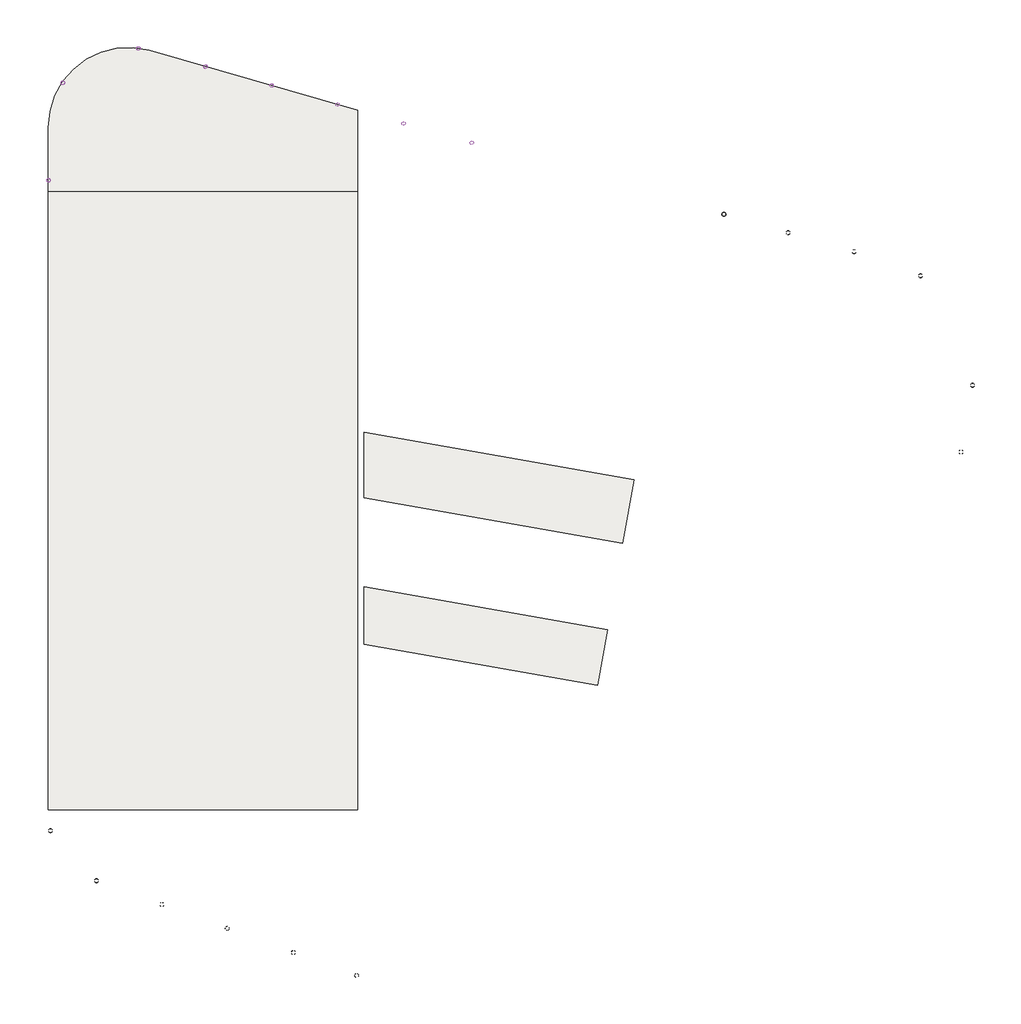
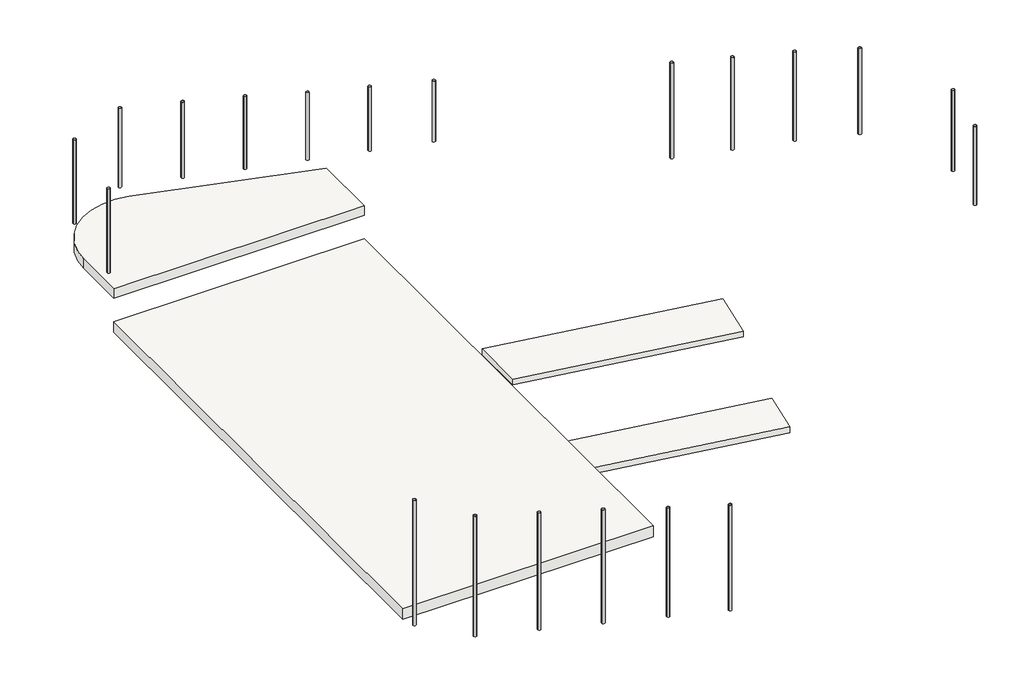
# One storey: 20 columns, 4 slabs.
"""IFC4 building model written with IfcOpenShell, lengths in millimetres."""

from ifc_helpers import new_model, si_unit, point, frame, frame_2d, origin, place, context, project, spatial, polyline, circle_curve, trimmed, segment, composite_curve, outline, extrude, transform, mapped, element, save
from components import column_1d1b7c36, column_1d5dbb1e, column_ca0ee623, column_ade1be1b, column_496c960e, column_339aa583, column_07a906fe, column_689e1651, column_8db69a7e, column_04f8d3d0, column_ffe7df0a, column_bf9cf6a6, column_01d08799, column_da6b27b0, column_163e7ca7, column_d5cd42f5, column_413da511, column_7dd9e76f, column_b007c91a

model = new_model("IFC4")

# Units and contexts
model_context = context("Model", 3, world=origin())
ifc_project = project(units=[si_unit("LENGTHUNIT", "METRE", prefix="MILLI")], contexts=[model_context])

# Site, building, storey
site = spatial("IfcSite", under=ifc_project)
building = spatial("IfcBuilding", under=site)
storey = spatial("IfcBuildingStorey", under=building, Name="02 2e verd. b.k. ruwe vloer", Elevation=3700.0)

# Columns
placement = place(None, origin())
column_shape = column_1d1b7c36(model_context)
element("IfcColumn", 1, ObjectType="NLRS_28_SC_TLB_kolom buis_generiek_ISR : ø88.9x5 ", at=placement, inside=storey, context=model_context, shape_type="MappedRepresentation", body=[
    mapped(column_shape, transform((10022.7239755, 9512.9180074, 0.0), x_axis=(1.0, 0.0, 0.0), y_axis=(0.0, 1.0, 0.0), z_axis=(0.0, 0.0, 1.0))),
])
column_2_shape = column_1d5dbb1e(model_context)
element("IfcColumn", 2, ObjectType="NLRS_28_SC_TLB_kolom buis_generiek_ISR : ø88.9x5 ", at=placement, inside=storey, context=model_context, shape_type="MappedRepresentation", body=[
    mapped(column_2_shape, transform((11094.4304625, 8347.512717, 0.0), x_axis=(1.0, 0.0, 0.0), y_axis=(0.0, 1.0, 0.0), z_axis=(0.0, 0.0, 1.0))),
])
column_3_shape = column_ca0ee623(model_context)
element("IfcColumn", 3, ObjectType="NLRS_28_SC_TLB_kolom buis_generiek_ISR : ø88.9x5 ", at=placement, inside=storey, context=model_context, shape_type="MappedRepresentation", body=[
    mapped(column_3_shape, transform((12618.434291, 7792.8206865, 0.0), x_axis=(1.0, 0.0, 0.0), y_axis=(0.0, 1.0, 0.0), z_axis=(0.0, 0.0, 1.0))),
])
column_4_shape = column_ade1be1b(model_context)
element("IfcColumn", 4, ObjectType="NLRS_28_SC_TLB_kolom buis_generiek_ISR : ø88.9x5 ", at=placement, inside=storey, context=model_context, shape_type="MappedRepresentation", body=[
    mapped(column_4_shape, transform((14140.7897516, 7238.7286129, 0.0), x_axis=(1.0, 0.0, 0.0), y_axis=(0.0, 1.0, 0.0), z_axis=(0.0, 0.0, 1.0))),
])
column_5_shape = column_496c960e(model_context)
element("IfcColumn", 5, ObjectType="NLRS_28_SC_TLB_kolom buis_generiek_ISR : ø88.9x5 ", at=placement, inside=storey, context=model_context, shape_type="MappedRepresentation", body=[
    mapped(column_5_shape, transform((15681.9195075, 6677.8032546, 0.0), x_axis=(1.0, 0.0, 0.0), y_axis=(0.0, 1.0, 0.0), z_axis=(0.0, 0.0, 1.0))),
])
column_6_shape = column_339aa583(model_context)
element("IfcColumn", 6, ObjectType="NLRS_28_SC_TLB_kolom buis_generiek_ISR : ø88.9x5 ", at=placement, inside=storey, context=model_context, shape_type="MappedRepresentation", body=[
    mapped(column_6_shape, transform((17157.090356, 6140.8849753, 0.0), x_axis=(1.0, 0.0, 0.0), y_axis=(0.0, 1.0, 0.0), z_axis=(0.0, 0.0, 1.0))),
])
column_7_shape = column_07a906fe(model_context)
element("IfcColumn", 7, ObjectType="NLRS_28_SC_TLB_kolom buis_generiek_ISR : ø88.9x5 ", at=placement, inside=storey, context=model_context, shape_type="MappedRepresentation", body=[
    mapped(column_7_shape, transform((25709.7809344, 23865.0309917, 0.0), x_axis=(1.0, 0.0, 0.0), y_axis=(0.0, 1.0, 0.0), z_axis=(0.0, 0.0, 1.0))),
])
column_8_shape = column_689e1651(model_context)
element("IfcColumn", 8, ObjectType="NLRS_28_SC_TLB_kolom buis_generiek_ISR : ø88.9x5 ", at=placement, inside=storey, context=model_context, shape_type="MappedRepresentation", body=[
    mapped(column_8_shape, transform((27204.3629063, 23436.4665076, 0.0), x_axis=(1.0, 0.0, 0.0), y_axis=(0.0, 1.0, 0.0), z_axis=(0.0, 0.0, 1.0))),
])
column_9_shape = column_8db69a7e(model_context)
element("IfcColumn", 9, ObjectType="NLRS_28_SC_TLB_kolom buis_generiek_ISR : ø88.9x5 ", at=placement, inside=storey, context=model_context, shape_type="MappedRepresentation", body=[
    mapped(column_9_shape, transform((28742.9824084, 22995.274465, 0.0), x_axis=(1.0, 0.0, 0.0), y_axis=(0.0, 1.0, 0.0), z_axis=(0.0, 0.0, 1.0))),
])
column_10_shape = column_04f8d3d0(model_context)
element("IfcColumn", 10, ObjectType="NLRS_28_SC_TLB_kolom buis_generiek_ISR : ø88.9x5 ", at=placement, inside=storey, context=model_context, shape_type="MappedRepresentation", body=[
    mapped(column_10_shape, transform((30288.8819976, 22433.4592537, 0.0), x_axis=(1.0, 0.0, 0.0), y_axis=(0.0, 1.0, 0.0), z_axis=(0.0, 0.0, 1.0))),
])
column_11_shape = column_ffe7df0a(model_context)
element("IfcColumn", 11, ObjectType="NLRS_28_SC_TLB_kolom buis_generiek_ISR : ø88.9x5 ", at=placement, inside=storey, context=model_context, shape_type="MappedRepresentation", body=[
    mapped(column_11_shape, transform((31501.5269939, 19884.8781418, 0.0), x_axis=(1.0, 0.0, 0.0), y_axis=(0.0, 1.0, 0.0), z_axis=(0.0, 0.0, 1.0))),
])
column_12_shape = column_bf9cf6a6(model_context)
element("IfcColumn", 12, ObjectType="NLRS_28_SC_TLB_kolom buis_generiek_ISR : ø88.9x5 ", at=placement, inside=storey, context=model_context, shape_type="MappedRepresentation", body=[
    mapped(column_12_shape, transform((31233.6889066, 18329.2425557, 0.0), x_axis=(1.0, 0.0, 0.0), y_axis=(0.0, 1.0, 0.0), z_axis=(0.0, 0.0, 1.0))),
])
column_13_shape = column_01d08799(model_context)
element("IfcColumn", 13, ObjectType="NLRS_28_SC_TLB_kolom buis_generiek_ISR : ø88.9x5 ", at=placement, inside=storey, context=model_context, shape_type="MappedRepresentation", body=[
    mapped(column_13_shape, transform((12072.4369088, 27726.0375567, 0.0), x_axis=(1.0, 0.0, 0.0), y_axis=(0.0, 1.0, 0.0), z_axis=(0.0, 0.0, 1.0))),
])
column_14_shape = column_da6b27b0(model_context)
element("IfcColumn", 14, ObjectType="NLRS_28_SC_TLB_kolom buis_generiek_ISR : ø88.9x5 ", at=placement, inside=storey, context=model_context, shape_type="MappedRepresentation", body=[
    mapped(column_14_shape, transform((13634.4871647, 27303.1268535, 0.0), x_axis=(1.0, 0.0, 0.0), y_axis=(0.0, 1.0, 0.0), z_axis=(0.0, 0.0, 1.0))),
])
column_15_shape = column_163e7ca7(model_context)
element("IfcColumn", 15, ObjectType="NLRS_28_SC_TLB_kolom buis_generiek_ISR : ø88.9x5 ", at=placement, inside=storey, context=model_context, shape_type="MappedRepresentation", body=[
    mapped(column_15_shape, transform((15172.5058782, 26862.1070842, 0.0), x_axis=(1.0, 0.0, 0.0), y_axis=(0.0, 1.0, 0.0), z_axis=(0.0, 0.0, 1.0))),
])
column_16_shape = column_d5cd42f5(model_context)
element("IfcColumn", 16, ObjectType="NLRS_28_SC_TLB_kolom buis_generiek_ISR : ø88.9x5 ", at=placement, inside=storey, context=model_context, shape_type="MappedRepresentation", body=[
    mapped(column_16_shape, transform((16710.5245917, 26421.0873149, 0.0), x_axis=(1.0, 0.0, 0.0), y_axis=(0.0, 1.0, 0.0), z_axis=(0.0, 0.0, 1.0))),
])
column_17_shape = column_413da511(model_context)
element("IfcColumn", 17, ObjectType="NLRS_28_SC_TLB_kolom buis_generiek_ISR : ø88.9x5 ", at=placement, inside=storey, context=model_context, shape_type="MappedRepresentation", body=[
    mapped(column_17_shape, transform((18248.5433052, 25980.0675456, 0.0), x_axis=(1.0, 0.0, 0.0), y_axis=(0.0, 1.0, 0.0), z_axis=(0.0, 0.0, 1.0))),
])
column_18_shape = column_7dd9e76f(model_context)
element("IfcColumn", 18, ObjectType="NLRS_28_SC_TLB_kolom buis_generiek_ISR : ø88.9x5 ", at=placement, inside=storey, context=model_context, shape_type="MappedRepresentation", body=[
    mapped(column_18_shape, transform((19835.5927173, 25532.1539002, 0.0), x_axis=(1.0, 0.0, 0.0), y_axis=(0.0, 1.0, 0.0), z_axis=(0.0, 0.0, 1.0))),
])
column_19_shape = column_b007c91a(model_context)
element("IfcColumn", 19, ObjectType="NLRS_28_SC_TLB_kolom buis_generiek_ISR : ø88.9x5 ", at=placement, inside=storey, context=model_context, shape_type="MappedRepresentation", body=[
    mapped(column_19_shape, transform((9975.3409441, 24656.3697451, 0.0), x_axis=(1.0, 0.0, 0.0), y_axis=(0.0, 1.0, 0.0), z_axis=(0.0, 0.0, 1.0))),
])
element("IfcColumn", 20, ObjectType="NLRS_28_SC_TLB_kolom buis_generiek_ISR : ø88.9x5 ", at=placement, inside=storey, context=model_context, shape_type="MappedRepresentation", body=[
    mapped(column_19_shape, transform((10308.377852, 26925.3119041, 0.0), x_axis=(1.0, 0.0, 0.0), y_axis=(0.0, 1.0, 0.0), z_axis=(0.0, 0.0, 1.0))),
])

# Slabs
element("IfcSlab", 21, ObjectType="NLRS_23_FL Houten kanaalplaat_d=320", at=placement, inside=storey, context=model_context, shape_type="SweptSolid", body=[
    extrude(outline(polyline([(17175.0, 24400.0), (17175.0, 10000.0), (9975.0, 10000.0), (9975.0, 24400.0), (17175.0, 24400.0)])), frame((0.0, 0.0, 3380.0), z_axis=(0.0, 0.0, 1.0), x_axis=(1.0, 0.0, 0.0)), (0.0, 0.0, 1.0), 320.0),
])
element("IfcSlab", 22, ObjectType="NLRS_23_FL Houten_balklaag_71x271+underlayment_d=18", at=placement, inside=storey, context=model_context, shape_type="SweptSolid", body=[
    extrude(outline(composite_curve([segment(polyline([(17175.0, 26287.5795075), (17175.0, 24400.0), (9974.7814661, 24400.0), (9974.7814661, 25891.4958502)]), True, "CONTINUOUS"), segment(trimmed(circle_curve(frame_2d((11828.4997551, 25891.4958502)), 1853.718289), [point((9974.7814661, 25891.4958502))], [point((12318.2098524, 27679.3592442))], False, "CARTESIAN"), True, "CONTINUOUS"), segment(polyline([(12318.2098524, 27679.3592442), (17175.0, 26287.5795075)]), True, "CONTINUOUS")], self_intersect=False)), frame((0.0, 0.0, 4411.0), z_axis=(0.0, 0.0, 1.0), x_axis=(1.0, 0.0, 0.0)), (0.0, 0.0, 1.0), 289.0),
])
element("IfcSlab", 23, ObjectType="NLRS_23_FL Houten_balklaag_59x156+underlayment_d=18", at=placement, inside=storey, context=model_context, shape_type="SweptSolid", body=[
    extrude(outline(polyline([(17331.0, 18790.478343), (23609.3885747, 17683.429042), (23349.0814647, 16207.1540619), (17331.0, 17268.3041963), (17331.0, 18790.478343)])), frame((0.0, 0.0, 3526.0), z_axis=(0.0, 0.0, 1.0), x_axis=(1.0, 0.0, 0.0)), (0.0, 0.0, 1.0), 174.0),
])
element("IfcSlab", 24, ObjectType="NLRS_23_FL Houten_balklaag_59x156+underlayment_d=18", at=placement, inside=storey, context=model_context, shape_type="SweptSolid", body=[
    extrude(outline(polyline([(17331.0, 15187.9592614), (22993.3215283, 14189.5392025), (22765.9787796, 12900.214405), (17331.0, 13858.5478035), (17331.0, 15187.9592614)])), frame((0.0, 0.0, 2824.0), z_axis=(0.0, 0.0, 1.0), x_axis=(1.0, 0.0, 0.0)), (0.0, 0.0, 1.0), 174.0),
])

save(model, "model.ifc")
